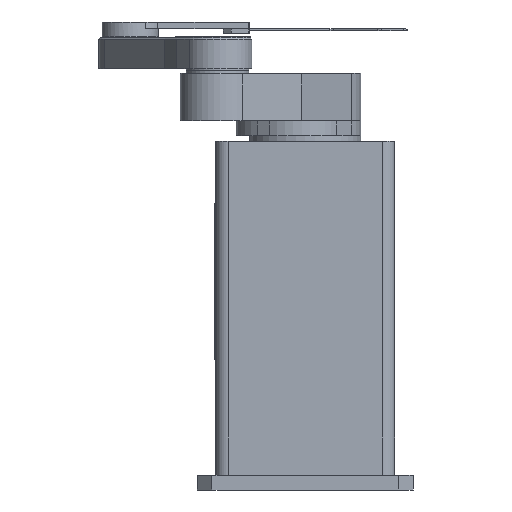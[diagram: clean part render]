
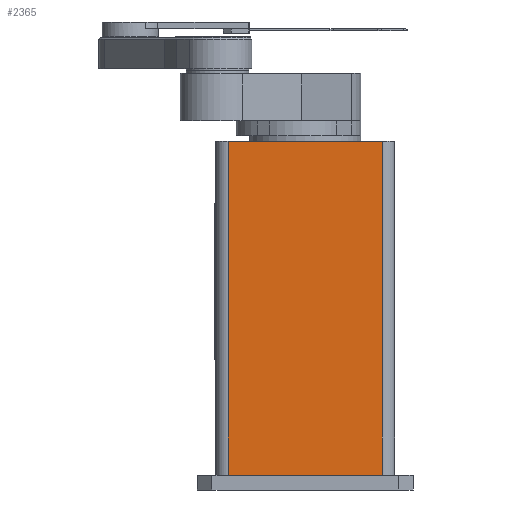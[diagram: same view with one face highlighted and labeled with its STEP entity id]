
A CAD part, front view. The second image highlights one B-rep face of the part: STEP entity #2365.
In plain terms, the highlighted planar face has unit normal (0, -1, 0).
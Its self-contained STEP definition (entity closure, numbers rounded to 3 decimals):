
#2090=CARTESIAN_POINT('',(103.5,-145.0,20.0));
#2091=VERTEX_POINT('',#2090);
#2099=CARTESIAN_POINT('',(-103.5,-145.0,20.0));
#2100=VERTEX_POINT('',#2099);
#2101=CARTESIAN_POINT('',(103.5,-145.0,20.0));
#2102=DIRECTION('',(-1.0,0.0,0.0));
#2103=VECTOR('',#2102,207.);
#2104=LINE('',#2101,#2103);
#2105=EDGE_CURVE('',#2091,#2100,#2104,.T.);
#2322=CARTESIAN_POINT('',(103.5,-145.0,468.));
#2323=VERTEX_POINT('',#2322);
#2331=CARTESIAN_POINT('',(103.5,-145.0,20.0));
#2332=DIRECTION('',(0.0,0.0,1.0));
#2333=VECTOR('',#2332,448.);
#2334=LINE('',#2331,#2333);
#2335=EDGE_CURVE('',#2091,#2323,#2334,.T.);
#2342=CARTESIAN_POINT('',(103.5,-145.0,20.0));
#2343=DIRECTION('',(0.0,-1.0,0.0));
#2344=DIRECTION('',(0.0,0.0,-1.0));
#2345=AXIS2_PLACEMENT_3D('',#2342,#2343,#2344);
#2346=PLANE('',#2345);
#2347=CARTESIAN_POINT('',(-103.5,-145.0,468.));
#2348=VERTEX_POINT('',#2347);
#2349=CARTESIAN_POINT('',(103.5,-145.0,468.));
#2350=DIRECTION('',(-1.0,0.0,0.0));
#2351=VECTOR('',#2350,207.);
#2352=LINE('',#2349,#2351);
#2353=EDGE_CURVE('',#2323,#2348,#2352,.T.);
#2354=ORIENTED_EDGE('',*,*,#2353,.T.);
#2355=CARTESIAN_POINT('',(-103.5,-145.0,20.0));
#2356=DIRECTION('',(0.0,0.0,1.0));
#2357=VECTOR('',#2356,448.);
#2358=LINE('',#2355,#2357);
#2359=EDGE_CURVE('',#2100,#2348,#2358,.T.);
#2360=ORIENTED_EDGE('',*,*,#2359,.F.);
#2361=ORIENTED_EDGE('',*,*,#2105,.F.);
#2362=ORIENTED_EDGE('',*,*,#2335,.T.);
#2363=EDGE_LOOP('',(#2354,#2360,#2361,#2362));
#2364=FACE_OUTER_BOUND('',#2363,.T.);
#2365=ADVANCED_FACE('',(#2364),#2346,.T.);
